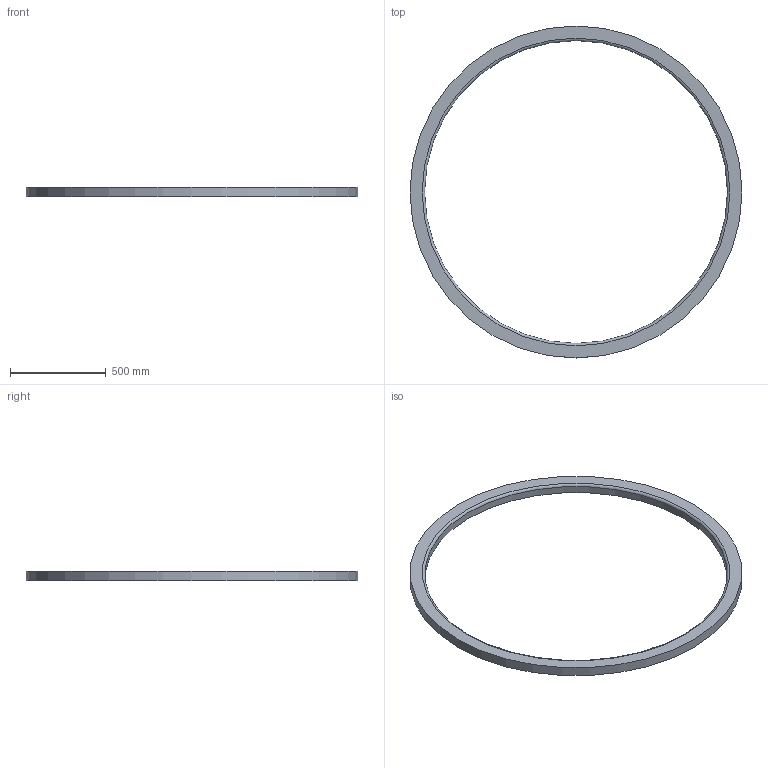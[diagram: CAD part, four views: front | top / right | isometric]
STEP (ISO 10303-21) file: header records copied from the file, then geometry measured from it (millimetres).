
FILE_DESCRIPTION( ( 'Unknown' ), '1' );
FILE_NAME( 'C:/Users/work/Documents/Solid Edge/heavy_gas_cherenkov/window_clamp.step', 'Unknown', ( 'Unknown' ), ( 'Unknown' ), 'PSStep 10.1', 'Unknown', ' ' );
FILE_SCHEMA( ( 'AUTOMOTIVE_DESIGN { 1 0 10303 214 1 1 1 1 }' ) );
Length unit declared in the file: millimetre
Products named in the file (1): 1
Bounding box: 1732.4 x 1732.4 x 50.8 mm (x, y, z)
Volume: 19968587.5 mm3; surface area: 1294604 mm2
Topology: 1 solids, 1 shells, 5 faces, 9 edges, 6 vertices
Faces by surface type: cylinder 2, plane 2, torus 1
Full cylindrical faces by diameter (mm): 1580 x1, 1732.4 x1
Entity records: 164 total; most frequent: DIRECTION 22, CARTESIAN_POINT 16, AXIS2_PLACEMENT_3D 11, EDGE_LOOP 10, ORIENTED_EDGE 10, FACE_OUTER_BOUND 8, STYLED_ITEM 5, PRESENTATION_STYLE_ASSIGNMENT 5
